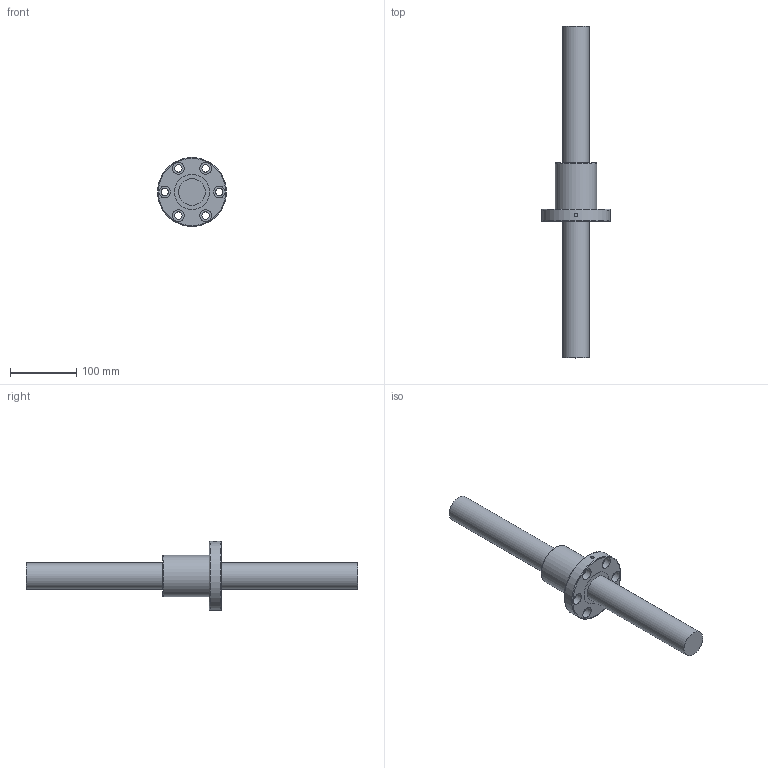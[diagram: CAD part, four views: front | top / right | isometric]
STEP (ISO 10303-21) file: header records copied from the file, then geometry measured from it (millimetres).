
FILE_DESCRIPTION(/* description */ (''),/* implementation_level */ '2;1');
FILE_NAME(/* name */ '4010.stp',/* time_stamp */ '2014-07-14T15:37:13+08:00',/* author */ (''),/* organization */ (''),/* preprocessor_version */ 'ST-DEVELOPER v11',/* originating_system */ 'SIEMENS UGS NX 6.0',/* authorisation */ '');
FILE_SCHEMA (('CONFIG_CONTROL_DESIGN'));
Length unit declared in the file: millimetre
Products named in the file (1): kcc27CCovhz
Bounding box: 104 x 500 x 104 mm (x, y, z)
Volume: 861752.4 mm3; surface area: 120769.7 mm2
Topology: 4 solids, 4 shells, 44 faces, 78 edges, 51 vertices
Faces by surface type: cylinder 23, plane 18, torus 3
Full cylindrical faces by diameter (mm): 5 x1, 11 x6, 17.5 x6, 40 x4, 53 x4, 62 x1, 104 x1
Entity records: 1104 total; most frequent: CARTESIAN_POINT 200, DIRECTION 186, EDGE_LOOP 98, ORIENTED_EDGE 98, FACE_BOUND 95, AXIS2_PLACEMENT_3D 93, VERTEX_POINT 49, EDGE_CURVE 49
